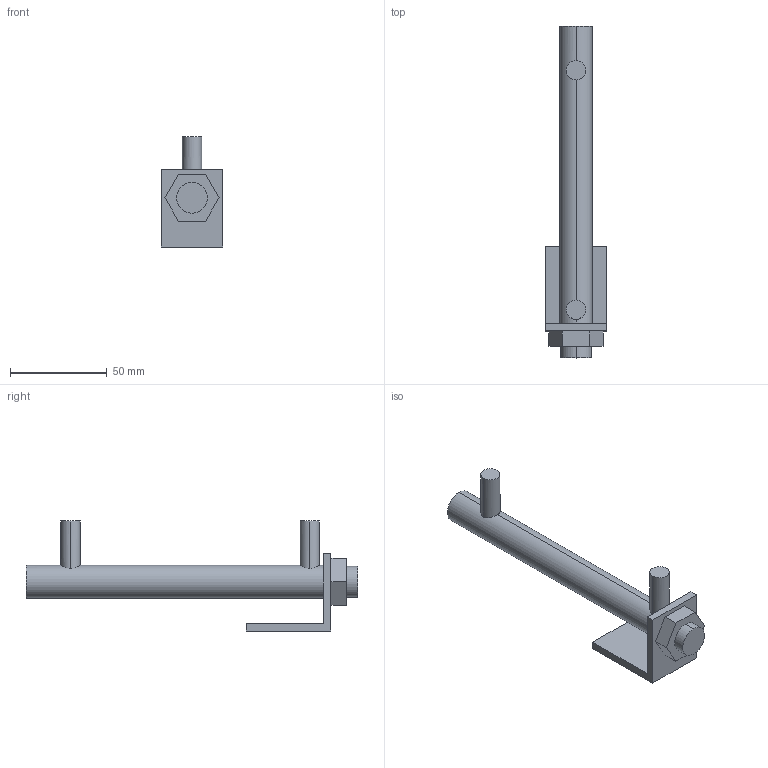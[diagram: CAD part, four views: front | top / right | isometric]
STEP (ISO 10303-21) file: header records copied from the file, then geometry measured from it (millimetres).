
FILE_DESCRIPTION (( 'STEP AP214' ), '1' );
FILE_NAME ('Ausschiebezylinder.STEP', '2009-12-01T14:24:22', ( 'Stevie' ), ( '' ), 'SwSTEP 2.0', 'SolidWorks 2009', '' );
FILE_SCHEMA (( 'AUTOMOTIVE_DESIGN' ));
Length unit declared in the file: millimetre
Products named in the file (1): Ausschiebezylinder
Bounding box: 32 x 172 x 57 mm (x, y, z)
Volume: 54148.5 mm3; surface area: 16701.3 mm2
Topology: 1 solids, 1 shells, 27 faces, 66 edges, 44 vertices
Faces by surface type: plane 19, cylinder 8
Entity records: 1057 total; most frequent: CARTESIAN_POINT 286, ORIENTED_EDGE 132, DIRECTION 126, EDGE_CURVE 66, VECTOR 46, LINE 46, VERTEX_POINT 44, AXIS2_PLACEMENT_3D 40
